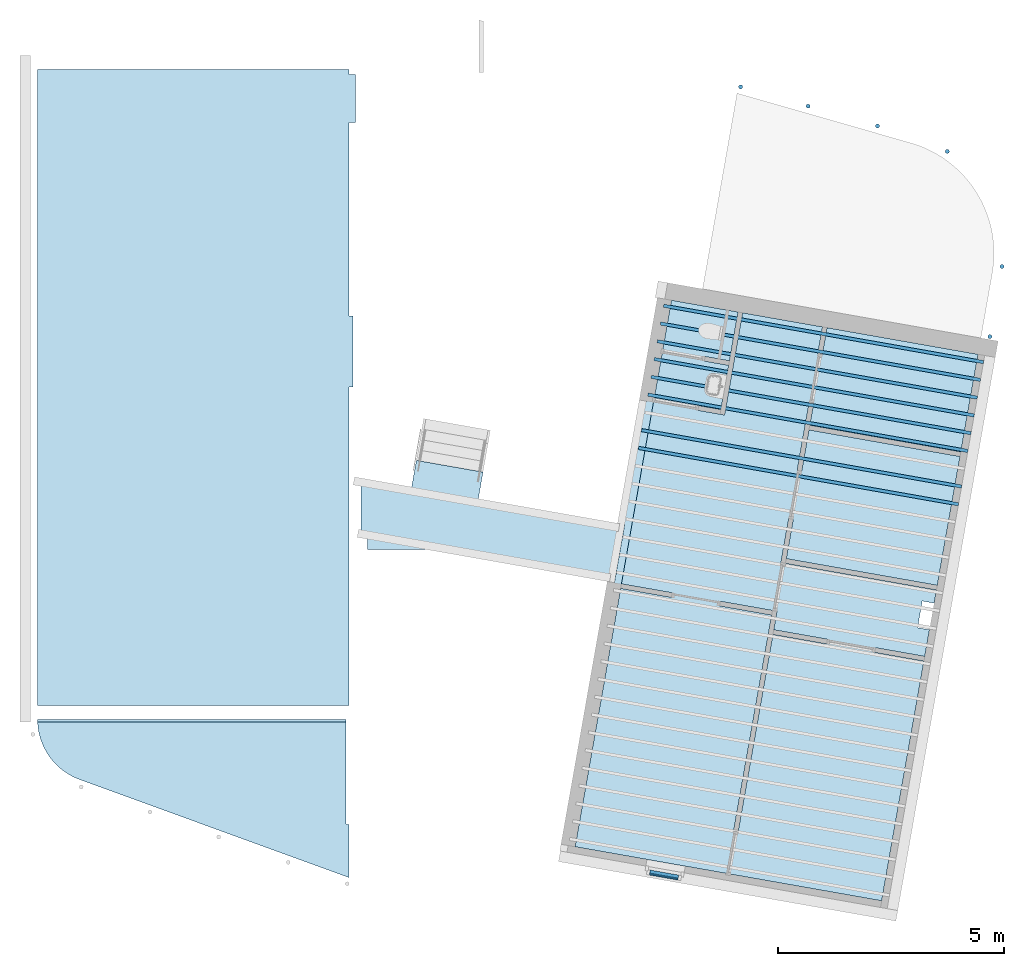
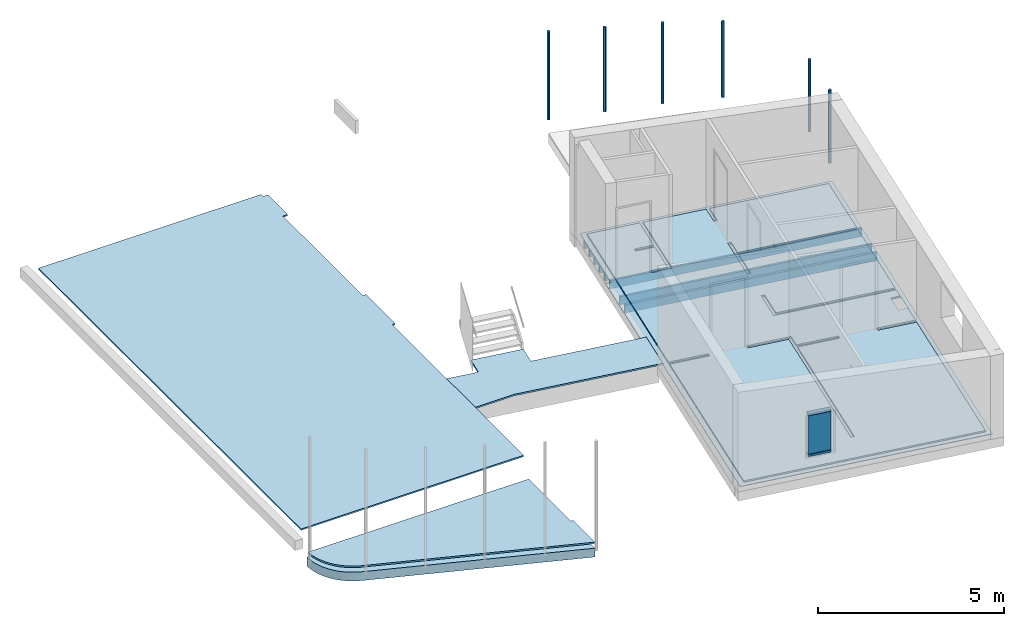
# One storey, part 2 of 7: 8 beams, 8 members, 6 slabs, 1 plate, 3 openings, 5 elements without a shape of their own.
"""IFC2X3 building model written with IfcOpenShell, lengths in millimetres."""

from ifc_helpers import new_model, entity, si_unit, converted_unit, derived_unit, direction, frame, frame_2d, origin, origin_2d_with_axis, place, context, subcontext, project, spatial, polyline, circle_curve, parameter, trimmed, segment, composite_curve, rectangle, circle, outline, extrude, source, transform, mapped, material, layer, layer_set, layer_usage, type_object, type_shapes, element, aggregate, save


model = new_model("IFC2X3")

# Units and contexts
model_context = context("Model", 3, precision=0.01, world=origin(), true_north=direction((6.12303176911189e-17, 1.0)))
body_context = subcontext(model_context, "Body", "Model", "MODEL_VIEW")
ifc_project = project(units=[si_unit("LENGTHUNIT", "METRE", prefix="MILLI"), si_unit("AREAUNIT", "SQUARE_METRE"), si_unit("VOLUMEUNIT", "CUBIC_METRE"), converted_unit("PLANEANGLEUNIT", "DEGREE", entity("IfcRatioMeasure", 0.0174532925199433), si_unit("PLANEANGLEUNIT", "RADIAN"), dimensions=[0, 0, 0, 0, 0, 0, 0]), si_unit("MASSUNIT", "GRAM", prefix="KILO"), derived_unit("MASSDENSITYUNIT", [(si_unit("MASSUNIT", "GRAM", prefix="KILO"), 1), (si_unit("LENGTHUNIT", "METRE"), -3)]), derived_unit("MOMENTOFINERTIAUNIT", [(si_unit("LENGTHUNIT", "METRE"), 4)]), si_unit("TIMEUNIT", "SECOND"), si_unit("FREQUENCYUNIT", "HERTZ"), si_unit("THERMODYNAMICTEMPERATUREUNIT", "DEGREE_CELSIUS"), derived_unit("THERMALTRANSMITTANCEUNIT", [(si_unit("MASSUNIT", "GRAM", prefix="KILO"), 1), (si_unit("THERMODYNAMICTEMPERATUREUNIT", "KELVIN"), -1), (si_unit("TIMEUNIT", "SECOND"), -3)]), derived_unit("VOLUMETRICFLOWRATEUNIT", [(si_unit("LENGTHUNIT", "METRE"), 3), (si_unit("TIMEUNIT", "SECOND"), -1)]), si_unit("ELECTRICCURRENTUNIT", "AMPERE"), si_unit("ELECTRICVOLTAGEUNIT", "VOLT"), si_unit("POWERUNIT", "WATT"), si_unit("FORCEUNIT", "NEWTON", prefix="KILO"), si_unit("ILLUMINANCEUNIT", "LUX"), si_unit("LUMINOUSFLUXUNIT", "LUMEN"), si_unit("LUMINOUSINTENSITYUNIT", "CANDELA"), derived_unit("USERDEFINED", [(si_unit("MASSUNIT", "GRAM", prefix="KILO"), -1), (si_unit("LENGTHUNIT", "METRE"), -2), (si_unit("TIMEUNIT", "SECOND"), 3), (si_unit("LUMINOUSFLUXUNIT", "LUMEN"), 1)]), derived_unit("LINEARVELOCITYUNIT", [(si_unit("LENGTHUNIT", "METRE"), 1), (si_unit("TIMEUNIT", "SECOND"), -1)]), si_unit("PRESSUREUNIT", "PASCAL"), derived_unit("USERDEFINED", [(si_unit("LENGTHUNIT", "METRE"), -2), (si_unit("MASSUNIT", "GRAM", prefix="KILO"), 1), (si_unit("TIMEUNIT", "SECOND"), -2)]), derived_unit("LINEARFORCEUNIT", [(si_unit("MASSUNIT", "GRAM", prefix="KILO"), 1), (si_unit("LENGTHUNIT", "METRE"), 1), (si_unit("TIMEUNIT", "SECOND"), -2), (si_unit("LENGTHUNIT", "METRE"), -1)]), derived_unit("PLANARFORCEUNIT", [(si_unit("MASSUNIT", "GRAM", prefix="KILO"), 1), (si_unit("LENGTHUNIT", "METRE"), 1), (si_unit("TIMEUNIT", "SECOND"), -2), (si_unit("LENGTHUNIT", "METRE"), -2)])], contexts=[model_context])

# Site, building, storey
site_placement = place(None, origin())
site = spatial("IfcSite", under=ifc_project, at=site_placement, Name="<Kadaster Gemeente>;<Kadaster nummer>;<Kadaster sectie>", CompositionType="ELEMENT")
building_placement = place(site_placement, origin())
building = spatial("IfcBuilding", under=site, at=building_placement, Name="JRCZ Middelburg", CompositionType="ELEMENT")
storey_placement = place(building_placement, frame((0.0, 0.0, 3000.0)))
storey = spatial("IfcBuildingStorey", under=building, at=storey_placement, Name="01 eerste verdieping", CompositionType="ELEMENT", Elevation=3000.0)

# Curtain wall, members
curtain_wall_type_1 = type_object("IfcCurtainWallType", Name="Curtain Wall:NLRS_31_CW_Ontwerpkozijn 067x114 2", PredefinedType="NOTDEFINED")
curtain_wall_1_placement = place(storey_placement, frame((0.0, 0.0, -3000.0)))
curtain_wall_1 = element("IfcCurtainWall", 1, at=curtain_wall_1_placement, inside=storey, type_object=curtain_wall_type_1, Name="Curtain Wall:NLRS_31_CW_Ontwerpkozijn 067x114 2", ObjectType="Curtain Wall:NLRS_31_CW_Ontwerpkozijn 067x114 2")
ifc_material_1 = material(Name="RBM_a_kozijn")
member_type_1 = type_object("IfcMemberType", Name="Rectangular Mullion:31_CWM_067x114", PredefinedType="MULLION", material=ifc_material_1)
shared_shape_1 = source(origin(), body_context, "Body", "SweptSolid", [
    extrude(rectangle(XDim=113.999999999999, YDim=67.0, at=origin_2d_with_axis()), frame((-33.5, 57.0, -641.0), z_axis=(0.0, 0.0, 1.0), x_axis=(0.0, -1.0, 0.0)), (0.0, 0.0, 1.0), 640.999999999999),
])
type_shapes(member_type_1, [shared_shape_1])
member_1_placement = place(storey_placement, frame((24361.6617875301, 6394.65119391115, 2000.0), z_axis=(0.984807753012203, -0.173648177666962, 0.0), x_axis=(0.0, 0.0, 1.0)))
member_1 = element("IfcMember", 2, at=member_1_placement, type_object=member_type_1, material=ifc_material_1, Name="Rectangular Mullion:31_CWM_067x114", ObjectType="Rectangular Mullion:31_CWM_067x114", context=body_context, shape_type="MappedRepresentation", body=[
    mapped(shared_shape_1, transform((0.0, 0.0, 0.0), scale=1.0)),
])
member_type_2 = type_object("IfcMemberType", Name="Rectangular Mullion:31_CWM_067x114", PredefinedType="MULLION", material=ifc_material_1)
shared_shape_2 = source(origin(), body_context, "Body", "SweptSolid", [
    extrude(rectangle(XDim=113.999999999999, YDim=67.0, at=origin_2d_with_axis()), frame((-33.5, 57.0, -641.0), z_axis=(0.0, 0.0, 1.0), x_axis=(0.0, -1.0, 0.0)), (0.0, 0.0, 1.0), 640.999999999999),
])
type_shapes(member_type_2, [shared_shape_2])
member_2_placement = place(storey_placement, frame((23730.4000178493, 6505.95967579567, 600.0), z_axis=(-0.984807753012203, 0.173648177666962, 0.0), x_axis=(0.0, 0.0, -1.0)))
member_2 = element("IfcMember", 3, at=member_2_placement, type_object=member_type_2, material=ifc_material_1, Name="Rectangular Mullion:31_CWM_067x114", ObjectType="Rectangular Mullion:31_CWM_067x114", context=body_context, shape_type="MappedRepresentation", body=[
    mapped(shared_shape_2, transform((0.0, 0.0, 0.0), scale=1.0)),
])

curtain_wall_type_2 = type_object("IfcCurtainWallType", PredefinedType="NOTDEFINED")
curtain_wall_2_placement = place(storey_placement, frame((0.0, 0.0, -3000.0)))
curtain_wall_2 = element("IfcCurtainWall", 4, at=curtain_wall_2_placement, inside=storey, type_object=curtain_wall_type_2)
ifc_material_2 = material(Name="Staal")
member_type_3 = type_object("IfcMemberType", Name="Rectangular Mullion:kolom rond 90", PredefinedType="MULLION", material=ifc_material_2)
shared_shape_3 = source(origin(), body_context, "Body", "SweptSolid", [
    extrude(circle(Radius=45.0, at=frame_2d((-6.74610794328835e-25, 3.8981061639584e-12), x_axis=(1.0, 0.0))), frame((0.0, 0.0, -2363.75657837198), z_axis=(0.0, 0.0, 1.0), x_axis=(-1.0, 0.0, 0.0)), (0.0, 0.0, 1.0), 2363.75657837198),
])
type_shapes(member_type_3, [shared_shape_3])
member_3_placement = place(storey_placement, frame((31526.52699392, 19884.8781417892, 350.0), z_axis=(0.0, 0.0, -1.0), x_axis=(0.105661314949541, 0.994402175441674, 0.0)))
member_3 = element("IfcMember", 5, at=member_3_placement, type_object=member_type_3, material=ifc_material_2, Name="Rectangular Mullion:kolom rond 90", ObjectType="Rectangular Mullion:kolom rond 90", context=body_context, shape_type="MappedRepresentation", body=[
    mapped(shared_shape_3, transform((0.0, 0.0, 0.0), scale=1.0)),
])
member_type_4 = type_object("IfcMemberType", Name="Rectangular Mullion:kolom rond 90", PredefinedType="MULLION", material=ifc_material_2)
shared_shape_4 = source(origin(), body_context, "Body", "SweptSolid", [
    extrude(circle(Radius=45.0, at=frame_2d((-4.22994972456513e-15, 4.08948640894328e-12), x_axis=(1.0, 0.0))), frame((0.0, 0.0, -2485.94681680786), z_axis=(0.0, 0.0, 1.0), x_axis=(-1.0, 0.0, 0.0)), (0.0, 0.0, 1.0), 2485.94681680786),
])
type_shapes(member_type_4, [shared_shape_4])
member_4_placement = place(storey_placement, frame((30313.881997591, 22433.4592537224, 350.0), z_axis=(0.0, 0.0, -1.0), x_axis=(-0.838257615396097, 0.54527439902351, 0.0)))
member_4 = element("IfcMember", 6, at=member_4_placement, type_object=member_type_4, material=ifc_material_2, Name="Rectangular Mullion:kolom rond 90", ObjectType="Rectangular Mullion:kolom rond 90", context=body_context, shape_type="MappedRepresentation", body=[
    mapped(shared_shape_4, transform((0.0, 0.0, 0.0), scale=1.0)),
])
aggregate(curtain_wall_2, [member_3, member_4])

# Curtain wall, member
curtain_wall_type_3 = type_object("IfcCurtainWallType", PredefinedType="NOTDEFINED")
curtain_wall_3_placement = place(storey_placement, frame((0.0, 0.0, -3000.0)))
curtain_wall_3 = element("IfcCurtainWall", 7, at=curtain_wall_3_placement, inside=storey, type_object=curtain_wall_type_3)
member_type_5 = type_object("IfcMemberType", Name="Rectangular Mullion:kolom rond 90", PredefinedType="MULLION", material=ifc_material_2)
shared_shape_5 = source(origin(), body_context, "Body", "SweptSolid", [
    extrude(circle(Radius=45.0, at=frame_2d((-6.92023404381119e-25, 3.94806620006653e-12), x_axis=(1.0, 0.0))), frame((0.0, 0.0, -2394.49917092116), z_axis=(0.0, 0.0, 1.0), x_axis=(-1.0, 0.0, 0.0)), (0.0, 0.0, 1.0), 2394.49917092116),
])
type_shapes(member_type_5, [shared_shape_5])
member_5_placement = place(storey_placement, frame((31258.6889066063, 18329.2425557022, 350.0), z_axis=(0.0, 0.0, -1.0), x_axis=(0.17364817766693, 0.984807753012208, 0.0)))
member_5 = element("IfcMember", 8, at=member_5_placement, type_object=member_type_5, material=ifc_material_2, Name="Rectangular Mullion:kolom rond 90", ObjectType="Rectangular Mullion:kolom rond 90", context=body_context, shape_type="MappedRepresentation", body=[
    mapped(shared_shape_5, transform((0.0, 0.0, 0.0), scale=1.0)),
])
aggregate(curtain_wall_3, [member_5])

# Curtain wall, members
curtain_wall_4_placement = place(storey_placement, frame((0.0, 0.0, -3000.0)))
curtain_wall_4 = element("IfcCurtainWall", 9, at=curtain_wall_4_placement, inside=storey, type_object=curtain_wall_type_3)
member_type_6 = type_object("IfcMemberType", Name="Rectangular Mullion:kolom rond 90", PredefinedType="MULLION", material=ifc_material_2)
shared_shape_6 = source(origin(), body_context, "Body", "SweptSolid", [
    extrude(circle(Radius=45.0, at=frame_2d((-4.22994972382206e-15, 6.84695561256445e-14), x_axis=(1.0, 0.0))), frame((0.0, 0.0, -2643.99870537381), z_axis=(0.0, 0.0, 1.0), x_axis=(-1.0, 0.0, 0.0)), (0.0, 0.0, 1.0), 2643.99870537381),
])
type_shapes(member_type_6, [shared_shape_6])
member_6_placement = place(storey_placement, frame((28767.9824083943, 22995.2744649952, 350.097155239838), z_axis=(0.0, 0.0, -1.0), x_axis=(-0.961261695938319, 0.275637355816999, 0.0)))
member_6 = element("IfcMember", 10, at=member_6_placement, type_object=member_type_6, material=ifc_material_2, Name="Rectangular Mullion:kolom rond 90", ObjectType="Rectangular Mullion:kolom rond 90", context=body_context, shape_type="MappedRepresentation", body=[
    mapped(shared_shape_6, transform((0.0, 0.0, 0.0), scale=1.0)),
])
member_type_7 = type_object("IfcMemberType", Name="Rectangular Mullion:kolom rond 90", PredefinedType="MULLION", material=ifc_material_2)
shared_shape_7 = source(origin(), body_context, "Body", "SweptSolid", [
    extrude(circle(Radius=45.0, at=frame_2d((-2.14795178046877e-28, 6.84695561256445e-14), x_axis=(1.0, 0.0))), frame((-45.0, 0.0, -2892.42459486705), z_axis=(0.0, 0.0, 1.0), x_axis=(-1.0, 0.0, 0.0)), (0.0, 0.0, 1.0), 2892.42459486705),
])
type_shapes(member_type_7, [shared_shape_7])
member_7_placement = place(storey_placement, frame((25691.5241580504, 23877.4346727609, 350.097155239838), z_axis=(0.0, 0.0, -1.0), x_axis=(-0.961261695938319, 0.275637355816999, 0.0)))
member_7 = element("IfcMember", 11, at=member_7_placement, type_object=member_type_7, material=ifc_material_2, Name="Rectangular Mullion:kolom rond 90", ObjectType="Rectangular Mullion:kolom rond 90", context=body_context, shape_type="MappedRepresentation", body=[
    mapped(shared_shape_7, transform((0.0, 0.0, 0.0), scale=1.0)),
])
member_type_8 = type_object("IfcMemberType", Name="Rectangular Mullion:kolom rond 90", PredefinedType="MULLION", material=ifc_material_2)
shared_shape_8 = source(origin(), body_context, "Body", "SweptSolid", [
    extrude(circle(Radius=45.0, at=frame_2d((-4.22994972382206e-15, 6.84695561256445e-14), x_axis=(1.0, 0.0))), frame((0.0, 0.0, -2768.24317329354), z_axis=(0.0, 0.0, 1.0), x_axis=(-1.0, 0.0, 0.0)), (0.0, 0.0, 1.0), 2768.24317329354),
])
type_shapes(member_type_8, [shared_shape_8])
member_8_placement = place(storey_placement, frame((27229.362906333, 23436.4665076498, 350.097155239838), z_axis=(0.0, 0.0, -1.0), x_axis=(-0.961261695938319, 0.275637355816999, 0.0)))
member_8 = element("IfcMember", 12, at=member_8_placement, type_object=member_type_8, material=ifc_material_2, Name="Rectangular Mullion:kolom rond 90", ObjectType="Rectangular Mullion:kolom rond 90", context=body_context, shape_type="MappedRepresentation", body=[
    mapped(shared_shape_8, transform((0.0, 0.0, 0.0), scale=1.0)),
])
aggregate(curtain_wall_4, [member_6, member_7, member_8])

# Assembly, beams
assembly_placement = place(storey_placement, origin())
assembly = element("IfcElementAssembly", 13, at=assembly_placement, inside=storey, Name="Structural Beam System:houten balkalaag 71 X 271 hoh400", ObjectType="Structural Beam System:houten balkalaag 71 X 271 hoh400", AssemblyPlace="NOTDEFINED", PredefinedType="BEAM_GRID")
ifc_material_3 = material(Name="Softwood, Lumber")
beam_type = type_object("IfcBeamType", Name="M_Dimension Lumber:71 x 271", PredefinedType="NOTDEFINED")
beam_1_placement = place(assembly_placement, frame((24027.3081556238, 19013.4185227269, 0.0), z_axis=(0.0, 0.0, 1.0), x_axis=(0.984807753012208, -0.173648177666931, 0.0)))
beam_1 = element("IfcBeam", 14, at=beam_1_placement, type_object=beam_type, material=ifc_material_3, Name="M_Dimension Lumber:71 x 271", ObjectType="M_Dimension Lumber:71 x 271", context=body_context, shape_type="SweptSolid", body=[
    extrude(rectangle(XDim=271.0, YDim=71.0000000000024, at=frame_2d((0.0, 2.1316282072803e-12), x_axis=(1.0, 0.0))), frame((0.0, 0.0, -199.500000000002), z_axis=(1.0, 0.0, 0.0), x_axis=(0.0, 0.0, -1.0)), (0.0, 0.0, 1.0), 7199.99999999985),
])
beam_2_placement = place(assembly_placement, frame((23957.848884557, 18619.495421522, 0.0), z_axis=(0.0, 0.0, 1.0), x_axis=(0.984807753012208, -0.173648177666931, 0.0)))
beam_2 = element("IfcBeam", 15, at=beam_2_placement, type_object=beam_type, material=ifc_material_3, Name="M_Dimension Lumber:71 x 271", ObjectType="M_Dimension Lumber:71 x 271", context=body_context, shape_type="SweptSolid", body=[
    extrude(rectangle(XDim=271.0, YDim=71.0000000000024, at=origin_2d_with_axis()), frame((0.0, 0.0, -199.500000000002), z_axis=(1.0, 0.0, 0.0), x_axis=(0.0, 0.0, -1.0)), (0.0, 0.0, 1.0), 7199.99999999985),
])
beam_3_placement = place(assembly_placement, frame((23888.3896134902, 18225.5723203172, 0.0), z_axis=(0.0, 0.0, 1.0), x_axis=(0.984807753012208, -0.173648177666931, 0.0)))
beam_3 = element("IfcBeam", 16, at=beam_3_placement, type_object=beam_type, material=ifc_material_3, Name="M_Dimension Lumber:71 x 271", ObjectType="M_Dimension Lumber:71 x 271", context=body_context, shape_type="SweptSolid", body=[
    extrude(rectangle(XDim=271.0, YDim=71.0000000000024, at=origin_2d_with_axis()), frame((0.0, 0.0, -199.500000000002), z_axis=(1.0, 0.0, 0.0), x_axis=(0.0, 0.0, -1.0)), (0.0, 0.0, 1.0), 7199.99999999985),
])
beam_4_placement = place(assembly_placement, frame((23818.9303424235, 17831.6492191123, 0.0), z_axis=(0.0, 0.0, 1.0), x_axis=(0.984807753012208, -0.173648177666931, 0.0)))
beam_4 = element("IfcBeam", 17, at=beam_4_placement, type_object=beam_type, material=ifc_material_3, Name="M_Dimension Lumber:71 x 271", ObjectType="M_Dimension Lumber:71 x 271", context=body_context, shape_type="SweptSolid", body=[
    extrude(rectangle(XDim=271.0, YDim=71.0000000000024, at=frame_2d((0.0, -2.1351809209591e-12), x_axis=(1.0, 0.0))), frame((0.0, 0.0, -199.500000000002), z_axis=(1.0, 0.0, 0.0), x_axis=(0.0, 0.0, -1.0)), (0.0, 0.0, 1.0), 7199.99999999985),
])
beam_5_placement = place(assembly_placement, frame((23749.4710713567, 17437.7261179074, 0.0), z_axis=(0.0, 0.0, 1.0), x_axis=(0.984807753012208, -0.173648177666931, 0.0)))
beam_5 = element("IfcBeam", 18, at=beam_5_placement, type_object=beam_type, material=ifc_material_3, Name="M_Dimension Lumber:71 x 271", ObjectType="M_Dimension Lumber:71 x 271", context=body_context, shape_type="SweptSolid", body=[
    extrude(rectangle(XDim=271.0, YDim=71.0000000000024, at=frame_2d((0.0, 2.1316282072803e-12), x_axis=(1.0, 0.0))), frame((0.0, 0.0, -199.500000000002), z_axis=(1.0, 0.0, 0.0), x_axis=(0.0, 0.0, -1.0)), (0.0, 0.0, 1.0), 7199.99999999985),
])
beam_6_placement = place(assembly_placement, frame((23680.0118002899, 17043.8030167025, 0.0), z_axis=(0.0, 0.0, 1.0), x_axis=(0.984807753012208, -0.173648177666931, 0.0)))
beam_6 = element("IfcBeam", 19, at=beam_6_placement, type_object=beam_type, material=ifc_material_3, Name="M_Dimension Lumber:71 x 271", ObjectType="M_Dimension Lumber:71 x 271", context=body_context, shape_type="SweptSolid", body=[
    extrude(rectangle(XDim=271.0, YDim=71.0000000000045, at=frame_2d((0.0, -2.1351809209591e-12), x_axis=(1.0, 0.0))), frame((0.0, 0.0, -199.500000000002), z_axis=(1.0, 0.0, 0.0), x_axis=(0.0, 0.0, -1.0)), (0.0, 0.0, 1.0), 7199.99999999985),
])
beam_7_placement = place(assembly_placement, frame((23541.0932581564, 16255.9568142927, 0.0), z_axis=(0.0, 0.0, 1.0), x_axis=(0.984807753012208, -0.173648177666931, 0.0)))
beam_7 = element("IfcBeam", 20, at=beam_7_placement, type_object=beam_type, material=ifc_material_3, Name="M_Dimension Lumber:71 x 271", ObjectType="M_Dimension Lumber:71 x 271", context=body_context, shape_type="SweptSolid", body=[
    extrude(rectangle(XDim=271.0, YDim=71.0000000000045, at=origin_2d_with_axis()), frame((0.0, 0.0, -199.500000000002), z_axis=(1.0, 0.0, 0.0), x_axis=(0.0, 0.0, -1.0)), (0.0, 0.0, 1.0), 7199.99999999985),
])
beam_8_placement = place(assembly_placement, frame((23471.6339870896, 15862.0337130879, 0.0), z_axis=(0.0, 0.0, 1.0), x_axis=(0.984807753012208, -0.173648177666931, 0.0)))
beam_8 = element("IfcBeam", 21, at=beam_8_placement, type_object=beam_type, material=ifc_material_3, Name="M_Dimension Lumber:71 x 271", ObjectType="M_Dimension Lumber:71 x 271", context=body_context, shape_type="SweptSolid", body=[
    extrude(rectangle(XDim=271.0, YDim=71.0000000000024, at=frame_2d((0.0, -1.06581410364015e-12), x_axis=(1.0, 0.0))), frame((0.0, 0.0, -199.500000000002), z_axis=(1.0, 0.0, 0.0), x_axis=(0.0, 0.0, -1.0)), (0.0, 0.0, 1.0), 7199.99999999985),
])
aggregate(assembly, [beam_1, beam_2, beam_3, beam_4, beam_5, beam_6, beam_7, beam_8])

# Slab
ifc_material_4 = material(Name="traphout")
ifc_layer_1 = layer(ifc_material_4, 50.0)
ifc_layer_set_1 = layer_set([ifc_layer_1], Name="Floor:RBM_23_FL_houten vloer-brug")
ifc_layer_usage_1 = layer_usage(ifc_layer_set_1, "AXIS3", "POSITIVE", 0.0)
slab_type_1 = type_object("IfcSlabType", Name="Floor:RBM_23_FL_houten vloer-brug", PredefinedType="FLOOR", material=ifc_layer_set_1)
slab_1_placement = place(storey_placement, origin())
element("IfcSlab", 22, at=slab_1_placement, inside=storey, type_object=slab_type_1, material=ifc_layer_usage_1, Name="Floor:RBM_23_FL_houten vloer-brug", ObjectType="Floor:RBM_23_FL_houten vloer-brug", PredefinedType="FLOOR", context=body_context, shape_type="SweptSolid", body=[
    extrude(outline(polyline([(-479.530203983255, -1897.68355352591), (848.307594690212, -1897.68355352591), (650.028454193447, -772.754836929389), (1240.38236911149, -668.699473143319), (980.017280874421, 808.471367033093), (389.408743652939, 704.371123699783), (-182.148605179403, 3947.0787190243), (-1470.078041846, 3719.98201009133), (-735.204326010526, -447.693934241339), (-735.204326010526, -1747.69393424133), (-505.978939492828, -1747.69393424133), (-479.530203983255, -1897.68355352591)])), frame((19215.6939342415, 14345.8112779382, 0.0), z_axis=(0.0, 0.0, -1.0), x_axis=(0.0, 1.0, 0.0)), (0.0, 0.0, 1.0), 50.0),
])

# Slab, opening
ifc_material_5 = material(Name="ISR_Multiplex")
ifc_layer_2 = layer(ifc_material_5, 19.0)
ifc_layer_set_2 = layer_set([ifc_layer_2], Name="Floor:RBM_23_FL_underlayment 19 mm")
ifc_layer_usage_2 = layer_usage(ifc_layer_set_2, "AXIS3", "POSITIVE", 0.0)
slab_type_2 = type_object("IfcSlabType", Name="Floor:RBM_23_FL_underlayment 19 mm", PredefinedType="FLOOR", material=ifc_layer_set_2)
slab_2_placement = place(storey_placement, frame((21882.3260986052, 5650.01628147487, -64.0)))
slab_2 = element("IfcSlab", 23, at=slab_2_placement, inside=storey, type_object=slab_type_2, material=ifc_layer_usage_2, Name="Floor:RBM_23_FL_underlayment 19 mm", ObjectType="Floor:RBM_23_FL_underlayment 19 mm", PredefinedType="FLOOR", context=body_context, shape_type="SweptSolid", body=[
    extrude(outline(polyline([(-4716.10643488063, 5565.61084651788), (-2528.13939627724, -6842.96684143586), (4571.585897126, -5591.09371659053), (3291.13932761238, 1670.67963408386), (3435.65986536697, 1696.16250415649), (2953.57743156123, 4430.18784655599), (2799.94742209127, 4403.09873083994), (2374.50938680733, 6815.87772571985), (-4716.10643488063, 5565.61084651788)])), frame((4571.585897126, 6842.96684143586, 19.0), z_axis=(0.0, 0.0, -1.0), x_axis=(-1.0, 0.0, 0.0)), (0.0, 0.0, 1.0), 19.0),
])
opening_1_placement = place(storey_placement, frame((21882.3260986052, 5650.01628147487, -64.0)))
element("IfcOpeningElement", 24, at=opening_1_placement, cuts=slab_2, ObjectType="Opening", context=body_context, shape_type="SweptSolid", body=[
    extrude(rectangle(XDim=600.0, YDim=299.999999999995, at=frame_2d((-3401.60648218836, -345.938347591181), x_axis=(0.173648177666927, -0.984807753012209))), frame((4571.585897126, 6842.96684143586, 19.0), z_axis=(0.0, 0.0, -1.0), x_axis=(-1.0, 0.0, 0.0)), (0.0, 0.0, 1.0), 19.0),
])

# Plate
ifc_material_6 = material(Name="o1_glas")
plate_type = type_object("IfcPlateType", Name="System Panel:31_CWP_glas_2", PredefinedType="CURTAIN_PANEL", material=ifc_material_6)
shared_shape_9 = source(origin(), body_context, "Body", "SweptSolid", [
    extrude(rectangle(XDim=24.0, YDim=640.999999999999, at=frame_2d((-7.99360577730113e-15, 0.0), x_axis=(1.0, 0.0))), frame((0.0, -85.0, 0.0), z_axis=(0.0, 0.0, 1.0), x_axis=(0.0, 1.0, 0.0)), (0.0, 0.0, 1.0), 1266.0),
])
type_shapes(plate_type, [shared_shape_9])
plate_placement = place(curtain_wall_1_placement, frame((24046.0309026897, 6450.30543485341, 3667.0), z_axis=(0.0, 0.0, 1.0), x_axis=(0.984807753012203, -0.173648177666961, 0.0)))
plate = element("IfcPlate", 25, at=plate_placement, type_object=plate_type, material=ifc_material_6, Name="System Panel:31_CWP_glas_2", ObjectType="System Panel:31_CWP_glas_2", context=body_context, shape_type="MappedRepresentation", body=[
    mapped(shared_shape_9, transform((0.0, 0.0, 0.0), scale=1.0)),
])

aggregate(curtain_wall_1, [plate, member_1, member_2])

# Slab, openings
ifc_material_7 = material(Name="vloerafwerking pvc")
ifc_layer_3 = layer(ifc_material_7, 10.0)
ifc_material_8 = material(Name="Zwevende dekvloer Fermacell")
ifc_layer_4 = layer(ifc_material_8, 35.0)
ifc_layer_set_3 = layer_set([ifc_layer_3, ifc_layer_4], Name="Floor:RBM_23_FL_Fermacell_zwevende_dekvloer")
ifc_layer_usage_3 = layer_usage(ifc_layer_set_3, "AXIS3", "POSITIVE", 0.0)
slab_type_3 = type_object("IfcSlabType", Name="Floor:RBM_23_FL_Fermacell_zwevende_dekvloer", PredefinedType="FLOOR", material=ifc_layer_set_3)
slab_3_placement = place(storey_placement, frame((22065.2039599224, 5823.78467107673, -45.0)))
slab_3 = element("IfcSlab", 26, at=slab_3_placement, inside=storey, type_object=slab_type_3, material=ifc_layer_usage_3, Name="Floor:RBM_23_FL_Fermacell_zwevende_dekvloer", ObjectType="Floor:RBM_23_FL_Fermacell_zwevende_dekvloer", PredefinedType="FLOOR", context=body_context, shape_type="SweptSolid", body=[
    extrude(outline(polyline([(-3562.55251667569, 336.481152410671), (-214.20615643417, 926.884956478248), (-368.058441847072, 1799.42462564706), (-269.577666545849, 1816.78944341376), (-98.360563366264, 845.768998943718), (-3545.18769890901, 238.000377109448), (-3284.71543240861, -1239.21125240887), (-2193.54844207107, -1046.8090715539), (-2176.18362430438, -1145.28984685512), (-3267.35061464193, -1337.69202771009), (-2329.6504552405, -6655.653893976), (4465.52304054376, -5457.48146807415), (3455.58523923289, 270.160423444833), (2330.93478529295, 71.8542045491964), (2313.56996752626, 170.334979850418), (3438.2204214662, 368.641198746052), (2729.04126387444, 4390.59606204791), (2329.65045524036, 6655.65389397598), (852.438825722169, 6395.18162747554), (1043.45182115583, 5311.89309916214), (1240.41337175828, 5346.62273469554), (1309.34991446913, 5358.77810713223), (1583.12646980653, 5407.05230052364), (1600.49128757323, 5308.57152522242), (1060.81663892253, 5213.41232386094), (1234.46481658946, 4228.60457084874), (1724.89907758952, 4315.08136332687), (1742.26389535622, 4216.60058802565), (1153.34885905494, 4112.75897778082), (753.958050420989, 6377.8168097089), (-1018.69590500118, 6065.25008990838), (-913.117812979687, 5466.48697607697), (-1011.59858828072, 5449.12215831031), (-1117.17668030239, 6047.88527214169), (-4465.52304054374, 5457.48146807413), (-4083.49704967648, 3290.90441144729), (-735.150689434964, 3881.30821551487), (-823.363963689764, 4381.59055404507), (-724.88318838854, 4398.95537181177), (-457.812291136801, 2884.32104767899), (-556.293066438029, 2866.9562299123), (-717.785871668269, 3782.82744021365), (-4066.1322319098, 3192.42363614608), (-3562.55251667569, 336.481152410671)])), frame((4465.52304054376, 6655.653893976, 45.0), z_axis=(0.0, 0.0, -1.0), x_axis=(-1.0, 0.0, 0.0)), (0.0, 0.0, 1.0), 45.0000000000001),
])
opening_2_placement = place(storey_placement, frame((22065.2039599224, 5823.78467107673, -45.0)))
element("IfcOpeningElement", 27, at=opening_2_placement, cuts=slab_3, ObjectType="Opening", context=body_context, shape_type="SweptSolid", body=[
    extrude(rectangle(XDim=600.0, YDim=299.999999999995, at=frame_2d((-3324.79147745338, -332.393789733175), x_axis=(0.173648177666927, -0.984807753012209))), frame((4465.52304054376, 6655.653893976, 45.0), z_axis=(0.0, 0.0, -1.0), x_axis=(-1.0, 0.0, 0.0)), (0.0, 0.0, 1.0), 45.0000000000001),
])
opening_3_placement = place(slab_3_placement, frame((4233.12578329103, 5240.91620987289, 45.0)))
element("IfcOpeningElement", 28, at=opening_3_placement, cuts=slab_3, Name="Floor:RBM_23_FL_Fermacell_zwevende_dekvloer:2", ObjectType="Opening", context=body_context, shape_type="SweptSolid", body=[
    extrude(outline(polyline([(-1241.2, -683.599999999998), (-1241.2, -783.599999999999), (-33.1999999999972, -783.599999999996), (-33.2000000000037, -1199.6), (1240.80000000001, -1199.6), (1240.8, -1099.6), (66.7999999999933, -1099.60000000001), (66.7999999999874, 3766.40000000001), (-33.2000000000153, 3766.40000000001), (-33.1999999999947, -683.599999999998), (-1241.2, -683.599999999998)])), frame((0.0, 0.0, 0.0), z_axis=(0.0, 0.0, 1.0), x_axis=(-0.984807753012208, 0.173648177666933, 0.0)), (0.0, 0.0, -1.0), 45.0000000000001),
])

# Slabs
ifc_layer_usage_4 = layer_usage(ifc_layer_set_3, "AXIS3", "POSITIVE", 0.0)
slab_type_4 = type_object("IfcSlabType", Name="Floor:RBM_23_FL_Fermacell_zwevende_dekvloer", PredefinedType="FLOOR", material=ifc_layer_set_3)
slab_4_placement = place(storey_placement, origin())
element("IfcSlab", 29, at=slab_4_placement, inside=storey, type_object=slab_type_4, material=ifc_layer_usage_4, Name="Floor:RBM_23_FL_Fermacell_zwevende_dekvloer", ObjectType="Floor:RBM_23_FL_Fermacell_zwevende_dekvloer", PredefinedType="FLOOR", context=body_context, shape_type="SweptSolid", body=[
    extrude(outline(polyline([(-9450.52979471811, -5790.49999999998), (4643.47020528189, -5790.49999999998), (4643.47020528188, 1109.50000000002), (4537.47020528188, 1109.50000000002), (4537.47020528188, 1256.49999999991), (3473.47020528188, 1256.49999999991), (3473.47020528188, 1109.50000000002), (-818.44041056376, 1109.50000000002), (-818.44041056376, 1205.50000000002), (-2385.44041056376, 1205.50000000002), (-2385.44041056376, 1109.50000000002), (-9450.52979471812, 1109.50000000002), (-9450.52979471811, -5790.49999999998)])), frame((15940.5000000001, 19600.5297947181, 700.0), z_axis=(0.0, 0.0, -1.0), x_axis=(0.0, 1.0, 0.0)), (0.0, 0.0, 1.0), 45.0000000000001),
])
ifc_layer_5 = layer(ifc_material_5, 18.0)
ifc_material_9 = material(Name="RBM_i2_hout_vuren_gen")
ifc_layer_6 = layer(ifc_material_9, 271.0)
ifc_layer_set_4 = layer_set([ifc_layer_5, ifc_layer_6], Name="Floor:RBM_23_FL_balklaag dak_71x271, h.o.h. 400")
ifc_layer_usage_5 = layer_usage(ifc_layer_set_4, "AXIS3", "POSITIVE", 0.0)
slab_type_5 = type_object("IfcSlabType", Name="Floor:RBM_23_FL_balklaag dak_71x271, h.o.h. 400", PredefinedType="FLOOR", material=ifc_layer_set_4)
slab_5_placement = place(storey_placement, origin())
element("IfcSlab", 30, at=slab_5_placement, inside=storey, type_object=slab_type_5, material=ifc_layer_usage_5, Name="Floor:RBM_23_FL_balklaag dak_71x271, h.o.h. 400", ObjectType="Floor:RBM_23_FL_balklaag dak_71x271, h.o.h. 400", PredefinedType="FLOOR", context=body_context, shape_type="SweptSolid", body=[
    extrude(outline(composite_curve([segment(polyline([(750.748460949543, -2168.02930348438), (1923.57574706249, -2168.02930348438)]), True, "CONTINUOUS"), segment(polyline([(1923.57574706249, -2168.02930348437), (-249.390773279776, 3802.14714438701)]), True, "CONTINUOUS"), segment(trimmed(circle_curve(frame_2d((-1585.89193704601, 3315.70050271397), x_axis=(0.939692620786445, 0.342020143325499)), 1422.27483136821), [parameter(0.0)], [parameter(69.8441072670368)], True, "PARAMETER"), True, "CONTINUOUS"), segment(polyline([(-1582.02215747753, 4737.97006955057), (-1582.02215747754, -2102.0293034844)]), True, "CONTINUOUS"), segment(polyline([(-1582.02215747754, -2102.0293034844), (739.110880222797, -2102.02930348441)]), True, "CONTINUOUS"), segment(polyline([(739.110880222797, -2102.02930348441), (750.748460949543, -2168.02930348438)]), True, "CONTINUOUS")], self_intersect=False)), frame((14887.9706965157, 8261.97784252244, -35.0), z_axis=(0.0, 0.0, -1.0), x_axis=(0.0, -1.0, 0.0)), (0.0, 0.0, 1.0), 289.0),
])
ifc_material_10 = material(Name="RBM_n7_dakisolatie_gen")
ifc_layer_7 = layer(ifc_material_10, 50.0)
ifc_layer_set_5 = layer_set([ifc_layer_7], Name="Floor:RBM_23_FL_dakisolatie 30 mm")
ifc_layer_usage_6 = layer_usage(ifc_layer_set_5, "AXIS3", "POSITIVE", 0.0)
slab_type_6 = type_object("IfcSlabType", Name="Floor:RBM_23_FL_dakisolatie 30 mm", PredefinedType="FLOOR", material=ifc_layer_set_5)
slab_6_placement = place(storey_placement, origin())
element("IfcSlab", 31, at=slab_6_placement, inside=storey, type_object=slab_type_6, material=ifc_layer_usage_6, Name="Floor:RBM_23_FL_dakisolatie 30 mm", ObjectType="Floor:RBM_23_FL_dakisolatie 30 mm", PredefinedType="FLOOR", context=body_context, shape_type="SweptSolid", body=[
    extrude(outline(composite_curve([segment(polyline([(730.748460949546, -2167.79104478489), (1903.57574706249, -2167.7910447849)]), True, "CONTINUOUS"), segment(polyline([(1903.57574706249, -2167.79104478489), (-269.390773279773, 3802.3854030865)]), True, "CONTINUOUS"), segment(trimmed(circle_curve(frame_2d((-1605.89193704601, 3315.93876141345), x_axis=(0.939692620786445, 0.342020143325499)), 1422.27483136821), [parameter(0.0)], [parameter(67.4261656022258)], True, "PARAMETER"), True, "CONTINUOUS"), segment(polyline([(-1542.02215747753, 4736.77877605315), (-1542.02215747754, -2101.79104478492)]), True, "CONTINUOUS"), segment(polyline([(-1542.02215747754, -2101.79104478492), (719.110880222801, -2101.79104478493)]), True, "CONTINUOUS"), segment(polyline([(719.110880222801, -2101.79104478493), (730.748460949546, -2167.79104478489)]), True, "CONTINUOUS")], self_intersect=False)), frame((14888.2089552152, 8241.97784252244, 165.0), z_axis=(0.0, 0.0, -1.0), x_axis=(0.0, -1.0, 0.0)), (0.0, 0.0, 1.0), 50.0),
])

save(model, "model.ifc")
